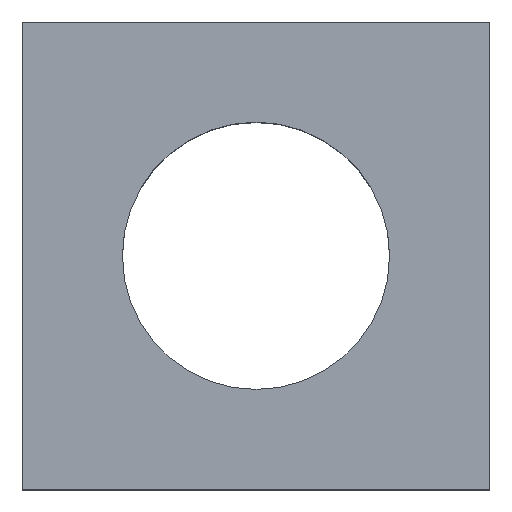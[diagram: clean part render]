
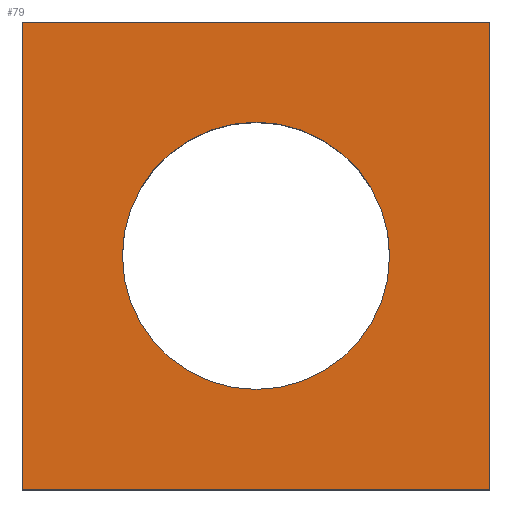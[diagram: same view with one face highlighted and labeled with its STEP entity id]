
A CAD part, top view. The second image highlights one B-rep face of the part: STEP entity #79.
In plain terms, the highlighted free-form (B-spline) face has degree [1, 1] with [2, 2] control points.
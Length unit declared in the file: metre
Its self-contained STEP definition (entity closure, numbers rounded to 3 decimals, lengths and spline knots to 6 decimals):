
#79 = ADVANCED_FACE( '', ( #93, #94 ), #95, .T. );
#93 = FACE_BOUND( '', #139, .T. );
#94 = FACE_OUTER_BOUND( '', #140, .T. );
#95 = B_SPLINE_SURFACE_WITH_KNOTS( '', 1, 1, ( ( #141, #142 ), ( #143, #144 ) ), .UNSPECIFIED., .F., .F., .F., ( 2, 2 ), ( 2, 2 ), ( 0., 1. ), ( 0., 1. ), .UNSPECIFIED. );
#139 = EDGE_LOOP( '', ( #170 ) );
#140 = EDGE_LOOP( '', ( #171, #172, #173, #174 ) );
#141 = CARTESIAN_POINT( '', ( 12.110377, 7.583931, 0.295618 ) );
#142 = CARTESIAN_POINT( '', ( 12.110377, 7.599331, 0.295618 ) );
#143 = CARTESIAN_POINT( '', ( 12.125777, 7.583931, 0.295618 ) );
#144 = CARTESIAN_POINT( '', ( 12.125777, 7.599331, 0.295618 ) );
#170 = ORIENTED_EDGE( '', *, *, #187, .F. );
#171 = ORIENTED_EDGE( '', *, *, #194, .T. );
#172 = ORIENTED_EDGE( '', *, *, #195, .T. );
#173 = ORIENTED_EDGE( '', *, *, #183, .T. );
#174 = ORIENTED_EDGE( '', *, *, #189, .T. );
#183 = EDGE_CURVE( '', #197, #198, #199, .T. );
#187 = EDGE_CURVE( '', #205, #205, #206, .T. );
#189 = EDGE_CURVE( '', #198, #209, #210, .T. );
#194 = EDGE_CURVE( '', #209, #217, #218, .T. );
#195 = EDGE_CURVE( '', #217, #197, #219, .T. );
#197 = VERTEX_POINT( '', #221 );
#198 = VERTEX_POINT( '', #222 );
#199 = LINE( '', #223, #224 );
#205 = VERTEX_POINT( '', #233 );
#206 = CIRCLE( '', #234, 0.004 );
#209 = VERTEX_POINT( '', #237 );
#210 = LINE( '', #238, #239 );
#217 = VERTEX_POINT( '', #250 );
#218 = LINE( '', #251, #252 );
#219 = LINE( '', #253, #254 );
#221 = CARTESIAN_POINT( '', ( 12.111077, 7.584631, 0.295618 ) );
#222 = CARTESIAN_POINT( '', ( 12.125077, 7.584631, 0.295618 ) );
#223 = CARTESIAN_POINT( '', ( 12.118077, 7.584631, 0.295618 ) );
#224 = VECTOR( '', #257, 1. );
#233 = CARTESIAN_POINT( '', ( 12.122077, 7.591631, 0.295618 ) );
#234 = AXIS2_PLACEMENT_3D( '', #261, #262, #263 );
#237 = CARTESIAN_POINT( '', ( 12.125077, 7.598631, 0.295618 ) );
#238 = CARTESIAN_POINT( '', ( 12.125077, 7.591631, 0.295618 ) );
#239 = VECTOR( '', #267, 1. );
#250 = CARTESIAN_POINT( '', ( 12.111077, 7.598631, 0.295618 ) );
#251 = CARTESIAN_POINT( '', ( 12.118077, 7.598631, 0.295618 ) );
#252 = VECTOR( '', #272, 1. );
#253 = CARTESIAN_POINT( '', ( 12.111077, 7.591631, 0.295618 ) );
#254 = VECTOR( '', #273, 1. );
#257 = DIRECTION( '', ( 1., 0., 0. ) );
#261 = CARTESIAN_POINT( '', ( 12.118077, 7.591631, 0.295618 ) );
#262 = DIRECTION( '', ( 0., 0., 1. ) );
#263 = DIRECTION( '', ( 0., -1., 0. ) );
#267 = DIRECTION( '', ( 0., 1., 0. ) );
#272 = DIRECTION( '', ( -1., 0., 0. ) );
#273 = DIRECTION( '', ( 0., -1., 0. ) );
